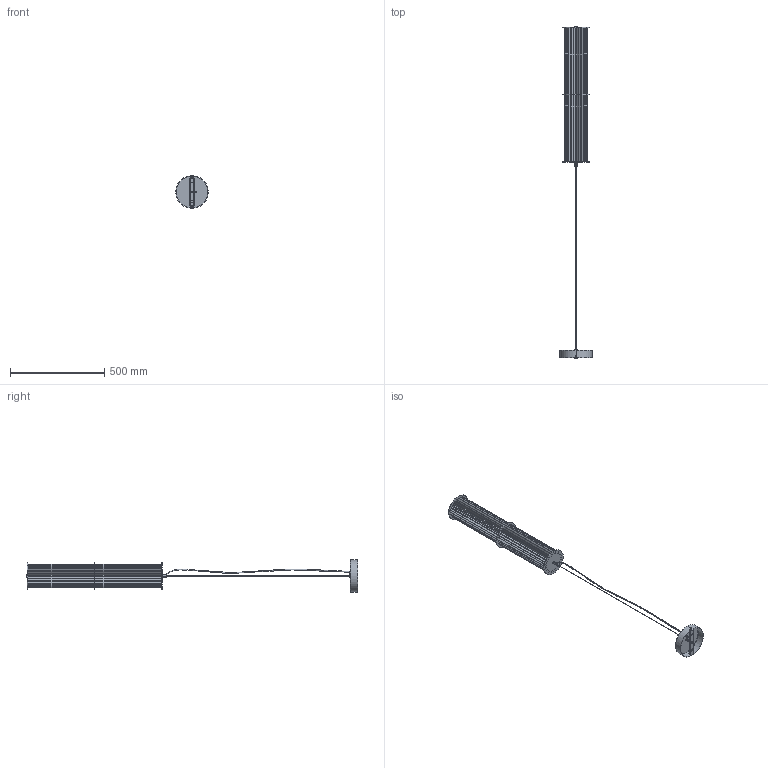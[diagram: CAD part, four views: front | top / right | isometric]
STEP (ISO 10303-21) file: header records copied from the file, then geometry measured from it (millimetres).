
FILE_DESCRIPTION (( 'STEP AP203' ), '1' );
FILE_NAME ('ORI_OR.S072.14_Suspensio 72cm (FORMA).STEP', '2025-07-08T07:52:44', ( '' ), ( '' ), 'SwSTEP 2.0', 'SolidWorks 2013', '' );
FILE_SCHEMA (( 'CONFIG_CONTROL_DESIGN' ));
Length unit declared in the file: millimetre
Products named in the file (13): ORI_OR.S072.14_Suspensio 72cm (FORMA); AR059-travesaño reforzado 165x20 2xM4; AR077_FLORON Ø172x40 (DOS FORATS); GI464-Disc Ø145x2_pas 101; GU023_CABLE ACER Ø1.5-bola Ø5 (BLACK); GU024 - SUSPENSOR M10 Cable Ø1.5 (BLACK); MS050_Pasacable abierto Ø11xØ4_498070; GI111_Finalet Ø12x7_M10x1; TP477_Pantalla plisada ORI (24 plecs); GI463-Disc Ø145x2_pas 10; KO219_Cable elèctric ORI suspensio; GI471_Tija superior Ø12x50 ranura lat. M10x1_pasØ2; AG019_M4x8
Assembly tree (15 placements, depth 2):
  ORI_OR.S072.14_Suspensio 72cm (FORMA)
    GI463-Disc Ø145x2_pas 10  x2
    GI111_Finalet Ø12x7_M10x1
    GI471_Tija superior Ø12x50 ranura lat. M10x1_pasØ2
    TP477_Pantalla plisada ORI (24 plecs)  x2
    KO219_Cable elèctric ORI suspensio
    GU023_CABLE ACER Ø1.5-bola Ø5 (BLACK)
    AR077_FLORON Ø172x40 (DOS FORATS)
    GU024 - SUSPENSOR M10 Cable Ø1.5 (BLACK)
    MS050_Pasacable abierto Ø11xØ4_498070
    AG019_M4x8  x2
    GI464-Disc Ø145x2_pas 101
    AR059-travesaño reforzado 165x20 2xM4
Bounding box: 172 x 1764 x 176.5 mm (x, y, z)
Volume: 375567 mm3; surface area: 1091400.5 mm2
Topology: 15 solids, 15 shells, 663 faces, 1801 edges, 1182 vertices
Faces by surface type: plane 386, cylinder 249, torus 16, cone 10, bspline 2
Entity records: 15294 total; most frequent: CARTESIAN_POINT 2955, DIRECTION 2349, ORIENTED_EDGE 2234, EDGE_CURVE 1117, AXIS2_PLACEMENT_3D 818, VERTEX_POINT 728, VECTOR 713, LINE 713
